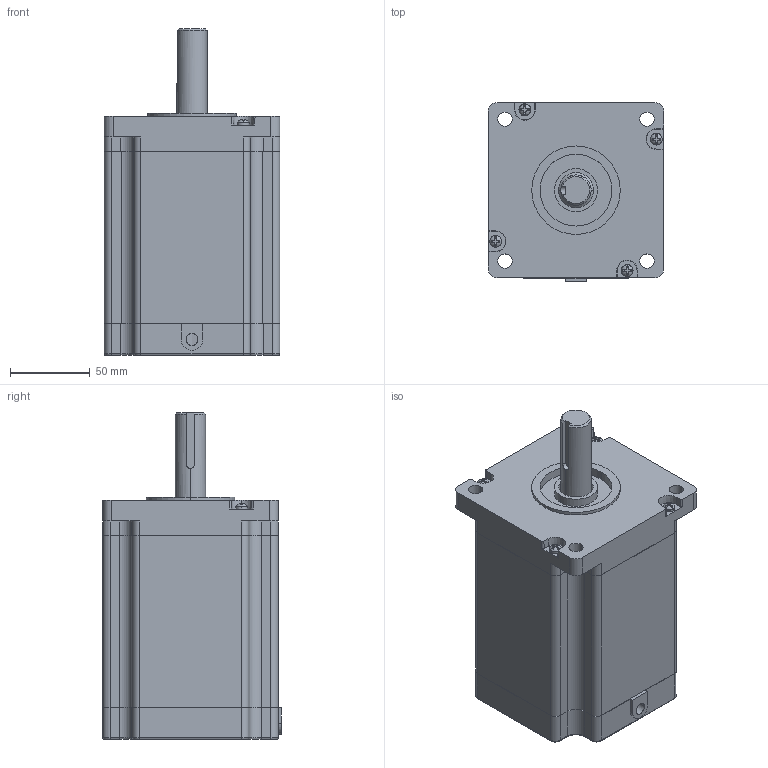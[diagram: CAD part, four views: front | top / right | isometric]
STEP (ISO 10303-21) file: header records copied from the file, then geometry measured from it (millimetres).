
FILE_DESCRIPTION (( 'STEP AP214' ), '1' );
FILE_NAME ('LS110A20-R9J60.STEP', '2019-11-27T07:49:28', ( '' ), ( '' ), 'SwSTEP 2.0', 'SolidWorks 2018', '' );
FILE_SCHEMA (( 'AUTOMOTIVE_DESIGN' ));
Length unit declared in the file: millimetre
Products named in the file (1): LS110A20-R9J60
Bounding box: 110 x 112 x 205 mm (x, y, z)
Volume: 1025196.1 mm3; surface area: 144696.7 mm2
Topology: 1 solids, 5 shells, 2950 faces, 8469 edges, 5630 vertices
Faces by surface type: plane 2763, cylinder 143, torus 28, cone 8, sphere 8
Entity records: 97110 total; most frequent: CARTESIAN_POINT 17274, ORIENTED_EDGE 16938, DIRECTION 14711, EDGE_CURVE 8469, LINE 8053, VECTOR 8053, VERTEX_POINT 5630, AXIS2_PLACEMENT_3D 3329
